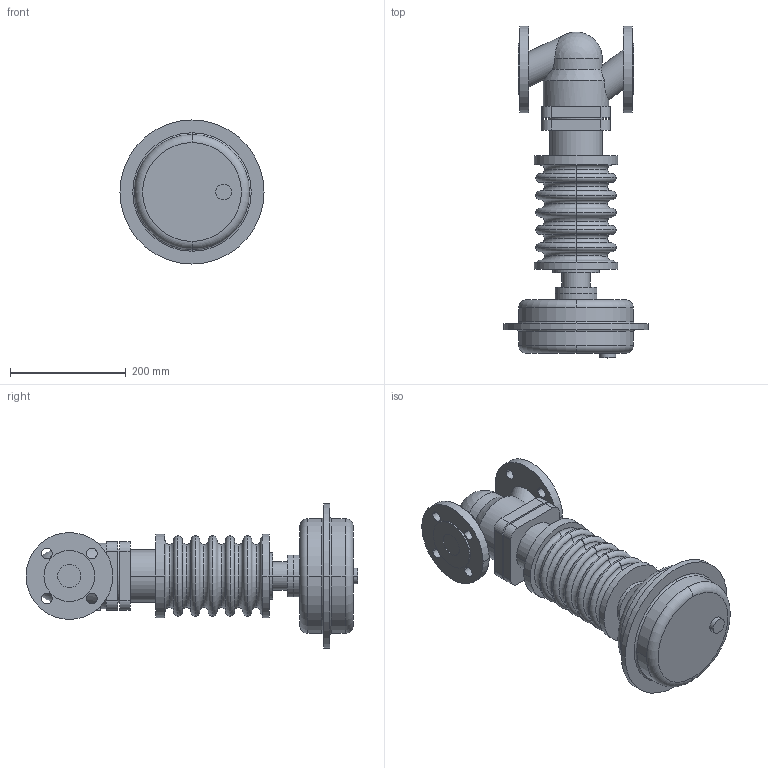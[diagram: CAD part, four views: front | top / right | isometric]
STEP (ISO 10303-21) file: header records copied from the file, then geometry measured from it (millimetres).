
FILE_DESCRIPTION( ( '' ), '1' );
FILE_NAME( 'F:/DE-SHS/TB/OR/04-Sonstiges/daten/files_3d/PREDU/PREDU-PN40-DMA250/c000005377.stp', '2014-06-03T11:24:38', ( '' ), ( '' ), ' ', ' ', ' ' );
FILE_SCHEMA( ( 'CONFIG_CONTROL_DESIGN' ) );
Length unit declared in the file: millimetre
Products named in the file (2): 1; 2
Bounding box: 249 x 574 x 249 mm (x, y, z)
Volume: 8140124 mm3; surface area: 501374.1 mm2
Topology: 2 solids, 2 shells, 173 faces, 413 edges, 265 vertices
Faces by surface type: cylinder 68, torus 54, plane 48, cone 2, sphere 1
Entity records: 5661 total; most frequent: CARTESIAN_POINT 1294, DIRECTION 1022, ORIENTED_EDGE 822, AXIS2_PLACEMENT_3D 448, EDGE_CURVE 411, CIRCLE 267, VERTEX_POINT 265, EDGE_LOOP 212
